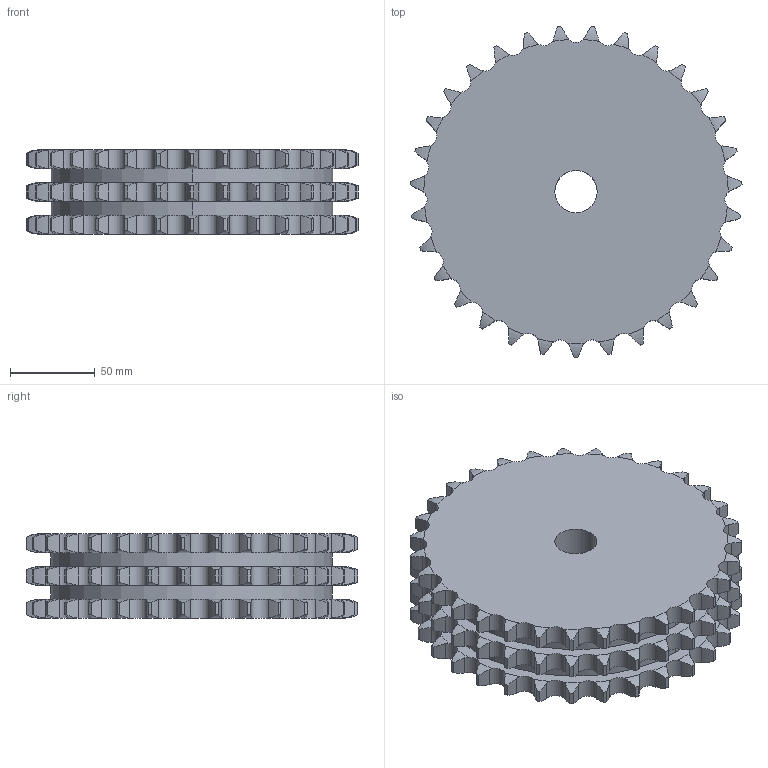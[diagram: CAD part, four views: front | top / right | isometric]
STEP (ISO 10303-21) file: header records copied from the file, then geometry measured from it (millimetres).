
FILE_DESCRIPTION((''),'2;1');
FILE_NAME('500-403-0031_PRT','2021-02-12T',('Brieden'),('Brieden'),'PRO/ENGINEER BY PARAMETRIC TECHNOLOGY CORPORATION, 2010160','PRO/ENGINEER BY PARAMETRIC TECHNOLOGY CORPORATION, 2010160','');
FILE_SCHEMA(('AUTOMOTIVE_DESIGN { 1 0 10303 214 1 1 1 1 }'));
Length unit declared in the file: millimetre
Products named in the file (1): 500-403-0031_PRT
Bounding box: 196.1 x 195.85 x 49.8 mm (x, y, z)
Volume: 1213051.9 mm3; surface area: 111954.9 mm2
Topology: 1 solids, 1 shells, 570 faces, 1692 edges, 1128 vertices
Faces by surface type: cylinder 378, torus 186, plane 6
Entity records: 27741 total; most frequent: CARTESIAN_POINT 8226, ORIENTED_EDGE 3384, DIRECTION 2658, PRESENTATION_STYLE_ASSIGNMENT 1693, STYLED_ITEM 1693, CURVE_STYLE 1692, EDGE_CURVE 1692, AXIS2_PLACEMENT_3D 1140
